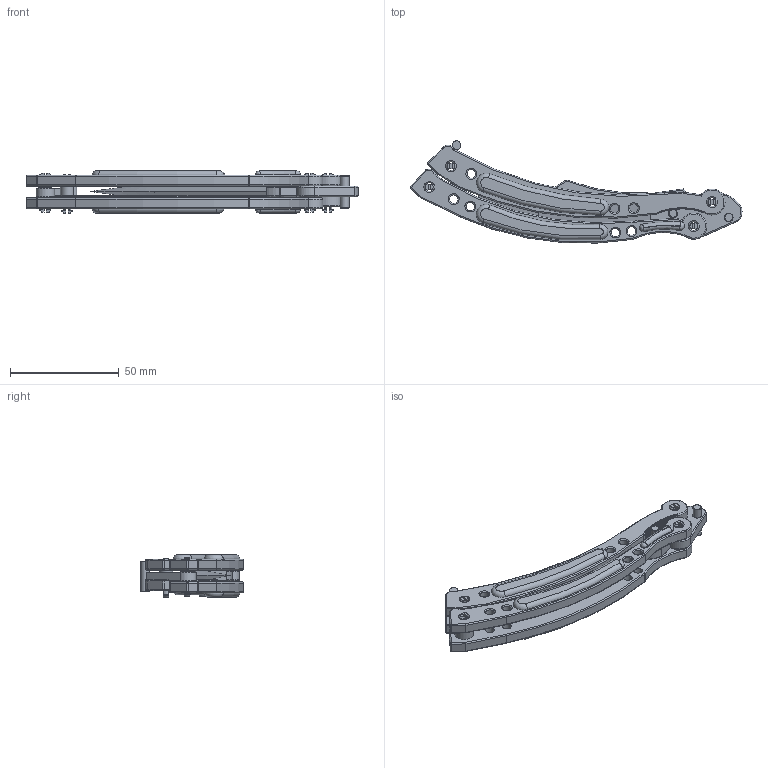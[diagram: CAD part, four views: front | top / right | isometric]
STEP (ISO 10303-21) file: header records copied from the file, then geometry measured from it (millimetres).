
FILE_DESCRIPTION(/* description */ (''),/* implementation_level */ '2;1');
FILE_NAME(/* name */ 'D:\STEP files\assembly.stp',/* time_stamp */ '2020-08-13T23:43:10+02:00',/* author */ ('Vít Budina'),/* organization */ (''),/* preprocessor_version */ 'ST-DEVELOPER v18',/* originating_system */ 'Autodesk Inventor 2020',/* authorisation */ '');
FILE_SCHEMA (('AUTOMOTIVE_DESIGN { 1 0 10303 214 3 1 1 }'));
Length unit declared in the file: millimetre
Products named in the file (10): assembly; blade; end pin; handle bottom; handle top; spacer; handle bottom_MIR; handle top_MIR; latch; holder pin clicker
Assembly tree (14 placements, depth 2):
  assembly
    blade
    end pin  x2
    handle bottom
    handle top
    spacer  x2
    handle bottom_MIR
    handle top_MIR
    latch
    holder pin clicker  x4
Bounding box: 152.98 x 47.06 x 19.5 mm (x, y, z)
Volume: 40183.5 mm3; surface area: 26397.8 mm2
Topology: 14 solids, 14 shells, 812 faces, 1858 edges, 1081 vertices
Faces by surface type: cylinder 280, torus 222, plane 220, sphere 64, cone 16, bspline 10
Full cylindrical faces by diameter (mm): 4 x31, 6 x2, 6.5 x1
Entity records: 22524 total; most frequent: CARTESIAN_POINT 5485, DIRECTION 3784, ORIENTED_EDGE 3246, AXIS2_PLACEMENT_3D 1650, EDGE_CURVE 1623, VERTEX_POINT 923, CIRCLE 911, EDGE_LOOP 788
